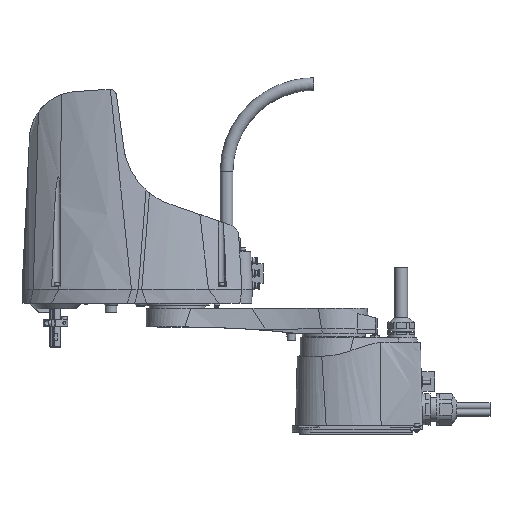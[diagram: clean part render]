
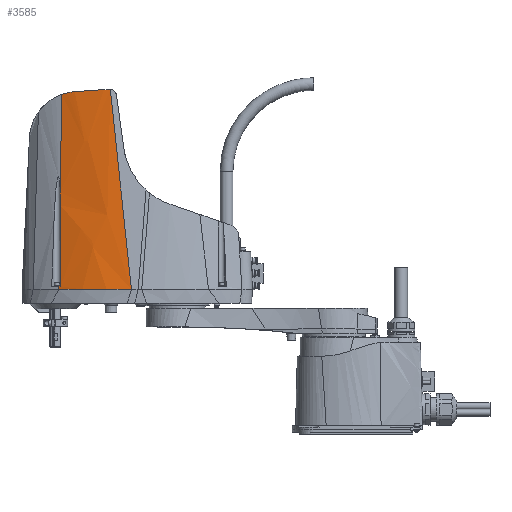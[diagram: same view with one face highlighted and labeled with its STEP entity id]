
A CAD part, top view. The second image highlights one B-rep face of the part: STEP entity #3585.
In plain terms, the highlighted free-form (B-spline) face has degree [3, 1] with [6, 2] control points.
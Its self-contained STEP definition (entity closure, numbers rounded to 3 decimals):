
#3585 = ADVANCED_FACE( '', ( #7588 ), #7589, .T. );
#7588 = FACE_OUTER_BOUND( '', #12686, .T. );
#7589 = B_SPLINE_SURFACE_WITH_KNOTS( '', 3, 1, ( ( #12687, #12688 ), ( #12689, #12690 ), ( #12691, #12692 ), ( #12693, #12694 ), ( #12695, #12696 ), ( #12697, #12698 ) ), .UNSPECIFIED., .F., .F., .F., ( 4, 2, 4 ), ( 2, 2 ), ( 0., 0.5, 1. ), ( 0., 1. ), .UNSPECIFIED. );
#12686 = EDGE_LOOP( '', ( #22228, #22229, #22230, #22231, #22232, #22233, #22234, #22235, #22236, #22237 ) );
#12687 = CARTESIAN_POINT( '', ( 4.852, 20., 58.479 ) );
#12688 = CARTESIAN_POINT( '', ( 9.145, 307.5, 38.004 ) );
#12689 = CARTESIAN_POINT( '', ( 21.37, 20., 65.279 ) );
#12690 = CARTESIAN_POINT( '', ( 20.371, 307.5, 42.21 ) );
#12691 = CARTESIAN_POINT( '', ( 38.533, 20., 70.511 ) );
#12692 = CARTESIAN_POINT( '', ( 31.86, 307.5, 45.715 ) );
#12693 = CARTESIAN_POINT( '', ( 73.538, 20., 77.654 ) );
#12694 = CARTESIAN_POINT( '', ( 55.184, 307.5, 51.268 ) );
#12695 = CARTESIAN_POINT( '', ( 91.379, 20., 79.564 ) );
#12696 = CARTESIAN_POINT( '', ( 67.02, 307.5, 53.316 ) );
#12697 = CARTESIAN_POINT( '', ( 109.24, 20., 79.779 ) );
#12698 = CARTESIAN_POINT( '', ( 78.937, 307.5, 54.62 ) );
#22228 = ORIENTED_EDGE( '', *, *, #25237, .F. );
#22229 = ORIENTED_EDGE( '', *, *, #25731, .T. );
#22230 = ORIENTED_EDGE( '', *, *, #23103, .F. );
#22231 = ORIENTED_EDGE( '', *, *, #24422, .T. );
#22232 = ORIENTED_EDGE( '', *, *, #25241, .F. );
#22233 = ORIENTED_EDGE( '', *, *, #24136, .T. );
#22234 = ORIENTED_EDGE( '', *, *, #25906, .T. );
#22235 = ORIENTED_EDGE( '', *, *, #23531, .T. );
#22236 = ORIENTED_EDGE( '', *, *, #24358, .F. );
#22237 = ORIENTED_EDGE( '', *, *, #26044, .F. );
#23103 = EDGE_CURVE( '', #27400, #27401, #27402, .T. );
#23531 = EDGE_CURVE( '', #28120, #28118, #28121, .T. );
#24136 = EDGE_CURVE( '', #29089, #27900, #29090, .T. );
#24358 = EDGE_CURVE( '', #29424, #28118, #29426, .T. );
#24422 = EDGE_CURVE( '', #27400, #29520, #29521, .T. );
#25237 = EDGE_CURVE( '', #30653, #30655, #30656, .T. );
#25241 = EDGE_CURVE( '', #29089, #29520, #30661, .T. );
#25731 = EDGE_CURVE( '', #30653, #27401, #31254, .T. );
#25906 = EDGE_CURVE( '', #27900, #28120, #31443, .T. );
#26044 = EDGE_CURVE( '', #30655, #29424, #31587, .T. );
#27400 = VERTEX_POINT( '', #34129 );
#27401 = VERTEX_POINT( '', #34130 );
#27402 = B_SPLINE_CURVE_WITH_KNOTS( '', 3, ( #34131, #34132, #34133, #34134 ), .UNSPECIFIED., .F., .F., ( 4, 4 ), ( 0., 0.116 ), .UNSPECIFIED. );
#27900 = VERTEX_POINT( '', #34899 );
#28118 = VERTEX_POINT( '', #35404 );
#28120 = VERTEX_POINT( '', #35407 );
#28121 = B_SPLINE_CURVE_WITH_KNOTS( '', 3, ( #35408, #35409, #35410, #35411 ), .UNSPECIFIED., .F., .F., ( 4, 4 ), ( 0., 0.009 ), .UNSPECIFIED. );
#29089 = VERTEX_POINT( '', #36959 );
#29090 = B_SPLINE_CURVE_WITH_KNOTS( '', 3, ( #36960, #36961, #36962, #36963, #36964, #36965 ), .UNSPECIFIED., .F., .F., ( 4, 2, 4 ), ( 0., 0.5, 1. ), .UNSPECIFIED. );
#29424 = VERTEX_POINT( '', #37528 );
#29426 = B_SPLINE_CURVE_WITH_KNOTS( '', 3, ( #37531, #37532, #37533, #37534, #37535, #37536 ), .UNSPECIFIED., .F., .F., ( 4, 2, 4 ), ( 0., 0.021, 0.043 ), .UNSPECIFIED. );
#29520 = VERTEX_POINT( '', #37661 );
#29521 = B_SPLINE_CURVE_WITH_KNOTS( '', 3, ( #37662, #37663, #37664, #37665 ), .UNSPECIFIED., .F., .F., ( 4, 4 ), ( 0.104, 0.107 ), .UNSPECIFIED. );
#30653 = VERTEX_POINT( '', #40091 );
#30655 = VERTEX_POINT( '', #40144 );
#30656 = B_SPLINE_CURVE_WITH_KNOTS( '', 1, ( #40145, #40146 ), .UNSPECIFIED., .F., .F., ( 2, 2 ), ( 0.487, 0.975 ), .UNSPECIFIED. );
#30661 = B_SPLINE_CURVE_WITH_KNOTS( '', 1, ( #40166, #40167 ), .UNSPECIFIED., .F., .F., ( 2, 2 ), ( 0., 0.016 ), .UNSPECIFIED. );
#31254 = B_SPLINE_CURVE_WITH_KNOTS( '', 3, ( #41282, #41283, #41284, #41285, #41286, #41287 ), .UNSPECIFIED., .F., .F., ( 4, 2, 4 ), ( 0., 0.01, 0.019 ), .UNSPECIFIED. );
#31443 = B_SPLINE_CURVE_WITH_KNOTS( '', 1, ( #41576, #41577 ), .UNSPECIFIED., .F., .F., ( 2, 2 ), ( 0., 0.999 ), .UNSPECIFIED. );
#31587 = B_SPLINE_CURVE_WITH_KNOTS( '', 3, ( #41780, #41781, #41782, #41783, #41784, #41785 ), .UNSPECIFIED., .F., .F., ( 4, 2, 4 ), ( 0., 0.01, 0.02 ), .UNSPECIFIED. );
#34129 = CARTESIAN_POINT( '', ( 7.695, 24.6, 59.275 ) );
#34130 = CARTESIAN_POINT( '', ( 7.296, 140.72, 50.137 ) );
#34131 = CARTESIAN_POINT( '', ( 7.695, 24.6, 59.275 ) );
#34132 = CARTESIAN_POINT( '', ( 7.562, 63.306, 56.225 ) );
#34133 = CARTESIAN_POINT( '', ( 7.429, 102.013, 53.179 ) );
#34134 = CARTESIAN_POINT( '', ( 7.296, 140.72, 50.137 ) );
#34899 = CARTESIAN_POINT( '', ( 109.24, 20., 79.779 ) );
#35404 = CARTESIAN_POINT( '', ( 69.64, 307.2, 53.473 ) );
#35407 = CARTESIAN_POINT( '', ( 78.968, 307.2, 54.646 ) );
#35408 = CARTESIAN_POINT( '', ( 78.968, 307.2, 54.646 ) );
#35409 = CARTESIAN_POINT( '', ( 75.853, 307.2, 54.306 ) );
#35410 = CARTESIAN_POINT( '', ( 72.743, 307.2, 53.915 ) );
#35411 = CARTESIAN_POINT( '', ( 69.64, 307.2, 53.473 ) );
#36959 = CARTESIAN_POINT( '', ( 4.852, 20., 58.479 ) );
#36960 = CARTESIAN_POINT( '', ( 4.852, 20., 58.479 ) );
#36961 = CARTESIAN_POINT( '', ( 21.37, 20., 65.279 ) );
#36962 = CARTESIAN_POINT( '', ( 38.533, 20., 70.511 ) );
#36963 = CARTESIAN_POINT( '', ( 73.538, 20., 77.654 ) );
#36964 = CARTESIAN_POINT( '', ( 91.379, 20., 79.564 ) );
#36965 = CARTESIAN_POINT( '', ( 109.24, 20., 79.779 ) );
#37528 = CARTESIAN_POINT( '', ( 27.77, 304.168, 44.528 ) );
#37531 = CARTESIAN_POINT( '', ( 27.77, 304.168, 44.528 ) );
#37532 = CARTESIAN_POINT( '', ( 34.616, 304.863, 46.52 ) );
#37533 = CARTESIAN_POINT( '', ( 41.534, 305.467, 48.262 ) );
#37534 = CARTESIAN_POINT( '', ( 55.511, 306.482, 51.248 ) );
#37535 = CARTESIAN_POINT( '', ( 62.55, 306.892, 52.487 ) );
#37536 = CARTESIAN_POINT( '', ( 69.64, 307.2, 53.473 ) );
#37661 = CARTESIAN_POINT( '', ( 4.92, 24.6, 58.151 ) );
#37662 = CARTESIAN_POINT( '', ( 7.695, 24.6, 59.275 ) );
#37663 = CARTESIAN_POINT( '', ( 6.768, 24.6, 58.906 ) );
#37664 = CARTESIAN_POINT( '', ( 5.843, 24.6, 58.531 ) );
#37665 = CARTESIAN_POINT( '', ( 4.92, 24.6, 58.151 ) );
#40091 = CARTESIAN_POINT( '', ( 6.944, 160.126, 48.5 ) );
#40144 = CARTESIAN_POINT( '', ( 9.037, 300.261, 38.52 ) );
#40145 = CARTESIAN_POINT( '', ( 6.944, 160.126, 48.5 ) );
#40146 = CARTESIAN_POINT( '', ( 9.037, 300.261, 38.52 ) );
#40166 = CARTESIAN_POINT( '', ( 4.852, 20., 58.479 ) );
#40167 = CARTESIAN_POINT( '', ( 4.92, 24.6, 58.151 ) );
#41282 = CARTESIAN_POINT( '', ( 6.944, 160.126, 48.5 ) );
#41283 = CARTESIAN_POINT( '', ( 7.063, 156.895, 48.796 ) );
#41284 = CARTESIAN_POINT( '', ( 7.143, 153.661, 49.077 ) );
#41285 = CARTESIAN_POINT( '', ( 7.255, 147.192, 49.621 ) );
#41286 = CARTESIAN_POINT( '', ( 7.285, 143.956, 49.883 ) );
#41287 = CARTESIAN_POINT( '', ( 7.296, 140.72, 50.137 ) );
#41576 = CARTESIAN_POINT( '', ( 109.24, 20., 79.779 ) );
#41577 = CARTESIAN_POINT( '', ( 78.968, 307.2, 54.646 ) );
#41780 = CARTESIAN_POINT( '', ( 9.037, 300.261, 38.52 ) );
#41781 = CARTESIAN_POINT( '', ( 12.054, 301.338, 39.572 ) );
#41782 = CARTESIAN_POINT( '', ( 15.123, 302.2, 40.6 ) );
#41783 = CARTESIAN_POINT( '', ( 21.367, 303.505, 42.605 ) );
#41784 = CARTESIAN_POINT( '', ( 24.541, 303.946, 43.581 ) );
#41785 = CARTESIAN_POINT( '', ( 27.77, 304.168, 44.528 ) );
